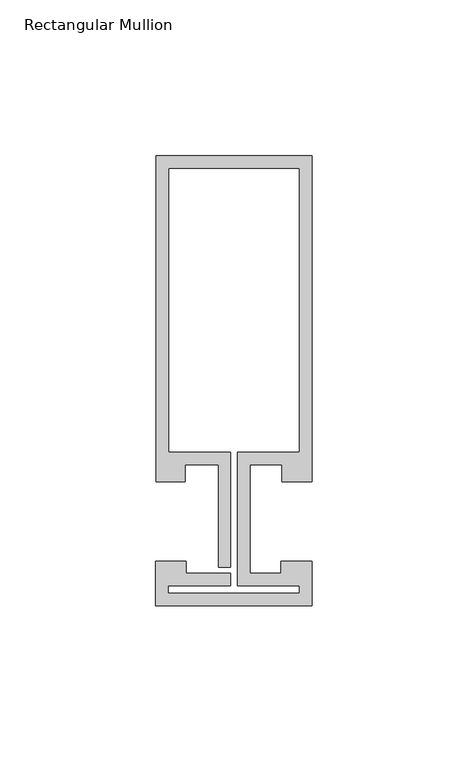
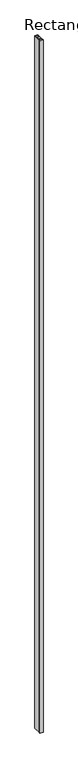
"""IFC4 building model written with IfcOpenShell, lengths in millimetres: member geometry, Rectangular Mullion : Reynaers_CW-50_Transom-Transom_104.5mm_Facecap-02A."""

from ifc_helpers import new_model, si_unit, frame, origin, place, context, project, spatial, polyline, outline, extrude, source, transform, mapped, element, save


def rectangular_mullion_926e1737(model_context):
    return source(origin(), model_context, "Body", "SweptSolid", [
        extrude(outline(polyline([(25.1995941, -12.7331291), (25.1995941, -27.0331291), (-24.994845, -27.0331291), (-24.994845, -12.7331291), (-15.2996495, -12.7331291), (-15.2996495, -16.7331291), (-0.9004059, -16.7331291), (-0.9004059, -20.7331291), (-20.994845, -20.7331291), (-20.994845, -23.0331291), (21.1995941, -23.0331291), (21.1995941, -20.7331291), (1.2995941, -20.7331291), (1.2995941, 22.1331291), (21.1995941, 22.1331291), (21.1995941, 113.2331291), (-20.8004059, 113.2331291), (-20.8004059, 22.1331291), (-0.9004059, 22.1331291), (-0.9004059, -14.7331291), (-4.9004059, -14.7331291), (-4.9004059, 18.1331291), (-15.499, 18.1331291), (-15.499, 12.7331291), (-24.8004059, 12.7331291), (-24.8004059, 117.2331291), (25.1995941, 117.2331291), (25.1995941, 12.7331291), (15.499, 12.7331291), (15.499, 18.1331291), (5.2995941, 18.1331291), (5.2995941, -16.7331291), (15.2996495, -16.7331291), (15.2996495, -12.7331291), (25.1995941, -12.7331291)])), frame((0.0, 0.0, -12000.0), z_axis=(0.0, 0.0, 1.0), x_axis=(1.0, 0.0, 0.0)), (0.0, 0.0, 1.0), 12000.0),
    ])


if __name__ == "__main__":
    model = new_model("IFC4")
    model_context = context("Model", 3, world=origin())
    ifc_project = project(units=[si_unit("LENGTHUNIT", "METRE", prefix="MILLI")], contexts=[model_context])
    site = spatial("IfcSite", under=ifc_project)
    building = spatial("IfcBuilding", under=site)
    placement = place(None, origin())
    rectangular_mullion_shape = rectangular_mullion_926e1737(model_context)
    element("IfcMember", 1, ObjectType="Rectangular Mullion : Reynaers_CW-50_Transom-Transom_104.5mm_Facecap-02A", at=placement, inside=building, context=model_context, shape_type="MappedRepresentation", body=[
        mapped(rectangular_mullion_shape, transform((0.0, 0.0, 0.0), x_axis=(1.0, 0.0, 0.0), y_axis=(0.0, 1.0, 0.0), z_axis=(0.0, 0.0, 1.0))),
    ])
    save(model, "model.ifc")
